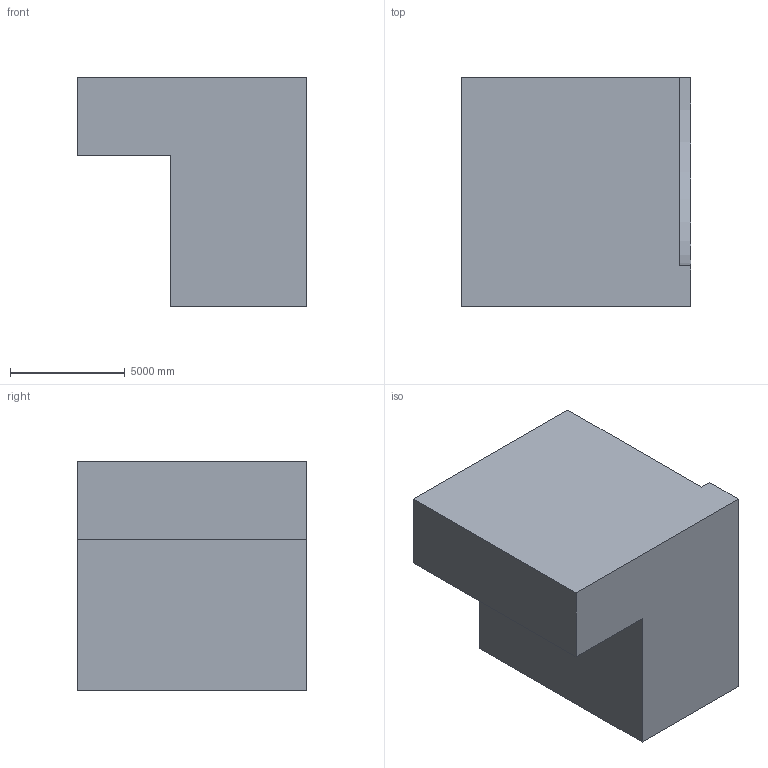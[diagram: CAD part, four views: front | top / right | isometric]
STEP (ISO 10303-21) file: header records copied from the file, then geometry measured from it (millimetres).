
FILE_DESCRIPTION (( 'STEP AP203' ), '1' );
FILE_NAME ('5.STEP', '2022-09-01T11:34:41', ( 'user' ), ( '' ), 'SwSTEP 2.0', 'SolidWorks 2021', '' );
FILE_SCHEMA (( 'CONFIG_CONTROL_DESIGN' ));
Length unit declared in the file: centimetre
Products named in the file (1): 5
Bounding box: 10000 x 10000 x 10000 mm (x, y, z)
Volume: 705242912563.7 mm3; surface area: 544613431.4 mm2
Topology: 1 solids, 1 shells, 10 faces, 24 edges, 16 vertices
Faces by surface type: plane 9, cylinder 1
Entity records: 367 total; most frequent: CARTESIAN_POINT 51, DIRECTION 48, ORIENTED_EDGE 48, EDGE_CURVE 24, LINE 22, VECTOR 22, VERTEX_POINT 16, AXIS2_PLACEMENT_3D 13
